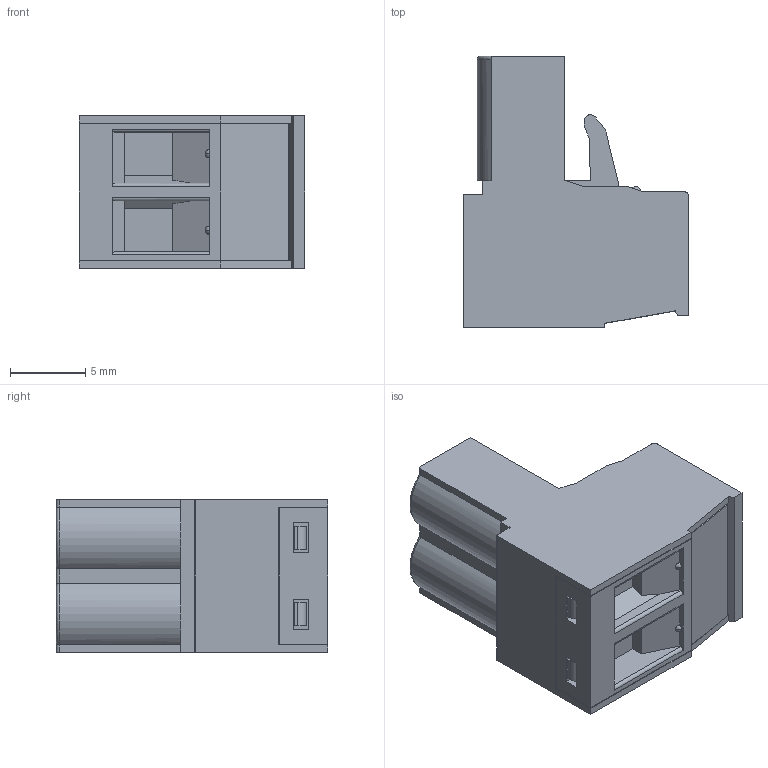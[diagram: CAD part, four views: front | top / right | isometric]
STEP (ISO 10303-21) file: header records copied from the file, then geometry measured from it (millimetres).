
FILE_DESCRIPTION (( 'STEP AP203' ), '1' );
FILE_NAME ('BR8F1-02.STEP', '2020-03-04T00:20:24', ( '' ), ( '' ), 'SwSTEP 2.0', 'SolidWorks 2019', '' );
FILE_SCHEMA (( 'CONFIG_CONTROL_DESIGN' ));
Length unit declared in the file: millimetre
Products named in the file (1): BR8F1-02
Bounding box: 15.05 x 18.1 x 10.16 mm (x, y, z)
Volume: 1640.8 mm3; surface area: 1674.5 mm2
Topology: 1 solids, 1 shells, 295 faces, 793 edges, 512 vertices
Faces by surface type: plane 197, cylinder 62, cone 16, torus 12, sphere 8
Entity records: 9385 total; most frequent: CARTESIAN_POINT 1846, ORIENTED_EDGE 1586, DIRECTION 1503, EDGE_CURVE 793, VECTOR 599, LINE 599, VERTEX_POINT 512, AXIS2_PLACEMENT_3D 452
